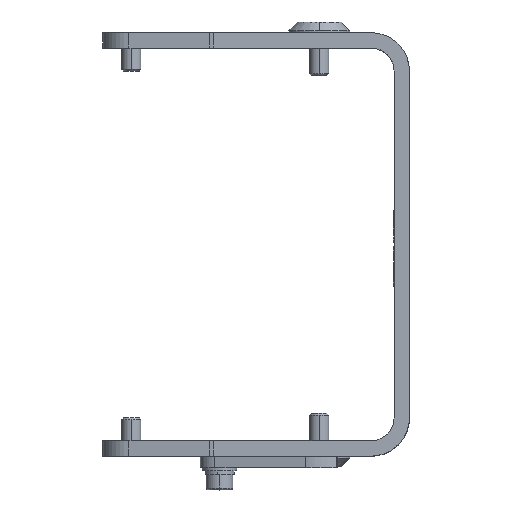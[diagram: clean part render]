
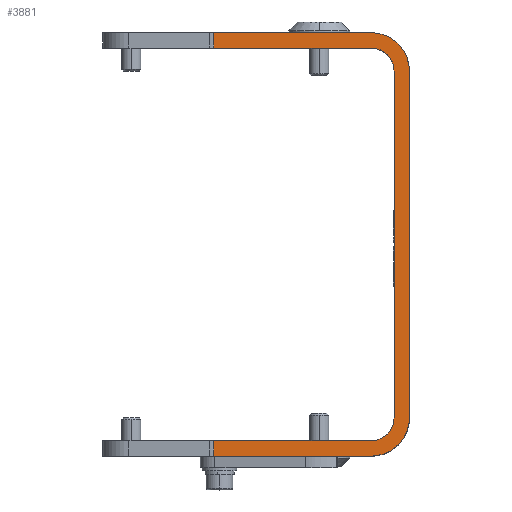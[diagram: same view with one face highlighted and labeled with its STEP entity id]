
A CAD part, top view. The second image highlights one B-rep face of the part: STEP entity #3881.
In plain terms, the highlighted planar face has unit normal (0, 0, 1).
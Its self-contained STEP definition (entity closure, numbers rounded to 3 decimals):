
#352=CARTESIAN_POINT('',(-18.531,-126.421,20.184));
#353=DIRECTION('',(0.,0.,1.));
#354=DIRECTION('',(0.,-1.,0.));
#355=AXIS2_PLACEMENT_3D('',#352,#353,#354);
#357=CARTESIAN_POINT('',(-18.531,-36.021,20.184));
#358=DIRECTION('',(0.,0.,1.));
#359=DIRECTION('',(1.,0.,0.));
#360=AXIS2_PLACEMENT_3D('',#357,#358,#359);
#362=DIRECTION('',(-1.,0.,0.));
#363=VECTOR('',#362,40.979);
#364=CARTESIAN_POINT('',(-18.531,-30.021,20.184));
#365=LINE('',#364,#363);
#366=DIRECTION('',(0.,1.,0.));
#367=VECTOR('',#366,4.);
#368=CARTESIAN_POINT('',(-59.51,-30.021,20.184));
#369=LINE('',#368,#367);
#370=DIRECTION('',(1.,0.,0.));
#371=VECTOR('',#370,40.979);
#372=CARTESIAN_POINT('',(-59.51,-26.021,20.184));
#373=LINE('',#372,#371);
#374=CARTESIAN_POINT('',(-18.531,-36.021,20.184));
#375=DIRECTION('',(0.,0.,-1.));
#376=DIRECTION('',(0.,1.,0.));
#377=AXIS2_PLACEMENT_3D('',#374,#375,#376);
#379=CARTESIAN_POINT('',(-18.531,-126.421,20.184));
#380=DIRECTION('',(0.,0.,-1.));
#381=DIRECTION('',(1.,0.,0.));
#382=AXIS2_PLACEMENT_3D('',#379,#380,#381);
#431=DIRECTION('',(1.,0.,0.));
#432=VECTOR('',#431,14.5);
#433=CARTESIAN_POINT('',(-33.031,-136.421,20.184));
#434=LINE('',#433,#432);
#497=DIRECTION('',(1.,0.,0.));
#498=VECTOR('',#497,26.479);
#499=CARTESIAN_POINT('',(-59.51,-136.421,20.184));
#500=LINE('',#499,#498);
#1073=DIRECTION('',(0.,-1.,0.));
#1074=VECTOR('',#1073,90.4);
#1075=CARTESIAN_POINT('',(-12.531,-36.021,
20.184));
#1076=LINE('',#1075,#1074);
#1299=DIRECTION('',(0.,1.,0.));
#1300=VECTOR('',#1299,90.4);
#1301=CARTESIAN_POINT('',(-8.531,-126.421,
20.184));
#1302=LINE('',#1301,#1300);
#1373=DIRECTION('',(-1.,0.,0.));
#1374=VECTOR('',#1373,40.979);
#1375=CARTESIAN_POINT('',(-18.531,-132.421,
20.184));
#1376=LINE('',#1375,#1374);
#1465=DIRECTION('',(0.,-1.,0.));
#1466=VECTOR('',#1465,4.);
#1467=CARTESIAN_POINT('',(-59.51,-132.421,
20.184));
#1468=LINE('',#1467,#1466);
#2711=CARTESIAN_POINT('',(-59.51,-26.021,
20.184));
#2712=CARTESIAN_POINT('',(-18.531,-26.021,
20.184));
#2713=VERTEX_POINT('',#2711);
#2714=VERTEX_POINT('',#2712);
#2776=CARTESIAN_POINT('',(-59.51,-30.021,
20.184));
#2777=VERTEX_POINT('',#2776);
#2808=CARTESIAN_POINT('',(-8.531,-126.421,
20.184));
#2809=CARTESIAN_POINT('',(-18.531,-136.421,
20.184));
#2810=VERTEX_POINT('',#2808);
#2811=VERTEX_POINT('',#2809);
#2812=CARTESIAN_POINT('',(-18.531,-132.421,
20.184));
#2813=CARTESIAN_POINT('',(-12.531,-126.421,
20.184));
#2814=VERTEX_POINT('',#2812);
#2815=VERTEX_POINT('',#2813);
#2816=CARTESIAN_POINT('',(-12.531,-36.021,
20.184));
#2817=VERTEX_POINT('',#2816);
#2818=CARTESIAN_POINT('',(-18.531,-30.021,
20.184));
#2819=VERTEX_POINT('',#2818);
#2820=CARTESIAN_POINT('',(-8.531,-36.021,
20.184));
#2821=VERTEX_POINT('',#2820);
#2891=CARTESIAN_POINT('',(-59.51,-132.421,
20.184));
#2892=VERTEX_POINT('',#2891);
#2957=CARTESIAN_POINT('',(-59.51,-136.421,
20.184));
#2958=VERTEX_POINT('',#2957);
#3131=CARTESIAN_POINT('',(-33.031,-136.421,
20.184));
#3132=VERTEX_POINT('',#3131);
#3851=CARTESIAN_POINT('',(-34.021,-81.221,
20.184));
#3852=DIRECTION('',(0.,0.,1.));
#3853=DIRECTION('',(0.,-1.,0.));
#3854=AXIS2_PLACEMENT_3D('',#3851,#3852,#3853);
#3855=PLANE('',#3854);
#3857=ORIENTED_EDGE('',*,*,#3856,.F.);
#3859=ORIENTED_EDGE('',*,*,#3858,.F.);
#3861=ORIENTED_EDGE('',*,*,#3860,.F.);
#3863=ORIENTED_EDGE('',*,*,#3862,.T.);
#3865=ORIENTED_EDGE('',*,*,#3864,.F.);
#3867=ORIENTED_EDGE('',*,*,#3866,.T.);
#3868=ORIENTED_EDGE('',*,*,#3578,.T.);
#3869=ORIENTED_EDGE('',*,*,#3837,.T.);
#3870=ORIENTED_EDGE('',*,*,#3450,.T.);
#3872=ORIENTED_EDGE('',*,*,#3871,.T.);
#3874=ORIENTED_EDGE('',*,*,#3873,.F.);
#3876=ORIENTED_EDGE('',*,*,#3875,.T.);
#3878=ORIENTED_EDGE('',*,*,#3877,.F.);
#3879=EDGE_LOOP('',(#3857,#3859,#3861,#3863,#3865,#3867,#3868,#3869,#3870,#3872,
#3874,#3876,#3878));
#3880=FACE_OUTER_BOUND('',#3879,.F.);
#356=CIRCLE('',#355,6.);
#361=CIRCLE('',#360,6.);
#378=CIRCLE('',#377,10.);
#383=CIRCLE('',#382,10.);
#3450=EDGE_CURVE('',#2713,#2714,#373,.T.);
#3578=EDGE_CURVE('',#2819,#2777,#365,.T.);
#3837=EDGE_CURVE('',#2777,#2713,#369,.T.);
#3856=EDGE_CURVE('',#2958,#3132,#500,.T.);
#3858=EDGE_CURVE('',#2892,#2958,#1468,.T.);
#3860=EDGE_CURVE('',#2814,#2892,#1376,.T.);
#3862=EDGE_CURVE('',#2814,#2815,#356,.T.);
#3864=EDGE_CURVE('',#2817,#2815,#1076,.T.);
#3866=EDGE_CURVE('',#2817,#2819,#361,.T.);
#3871=EDGE_CURVE('',#2714,#2821,#378,.T.);
#3873=EDGE_CURVE('',#2810,#2821,#1302,.T.);
#3875=EDGE_CURVE('',#2810,#2811,#383,.T.);
#3877=EDGE_CURVE('',#3132,#2811,#434,.T.);
#3881=ADVANCED_FACE('',(#3880),#3855,.T.);
